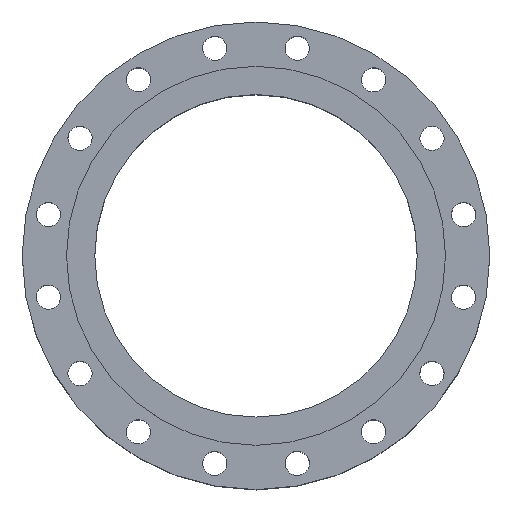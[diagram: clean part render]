
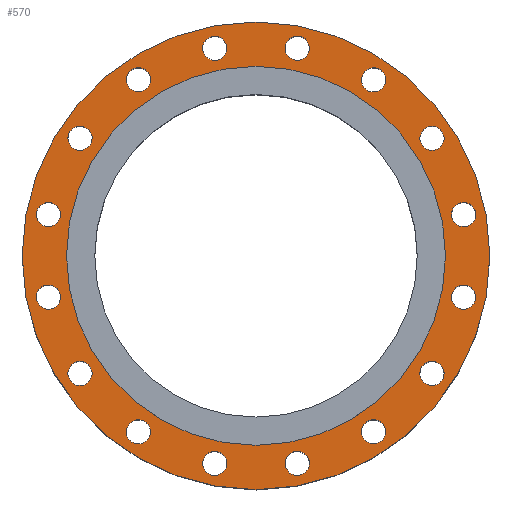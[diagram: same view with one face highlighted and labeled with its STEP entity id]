
A CAD part, top view. The second image highlights one B-rep face of the part: STEP entity #570.
In plain terms, the highlighted planar face has unit normal (0, 0, 1).
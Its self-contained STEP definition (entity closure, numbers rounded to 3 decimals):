
#570=ADVANCED_FACE('',(#1227,#1229,#1231,#1233,#1235,#1237,#1239,#1241,#1243,#1245,
#1247,#1249,#1251,#1253,#1255,#1257,#1259,#1261),#1263,.T.);
#1227=FACE_BOUND('',#1228,.T.);
#1228=EDGE_LOOP('',(#1588));
#1229=FACE_BOUND('',#1230,.T.);
#1230=EDGE_LOOP('',(#1589));
#1231=FACE_BOUND('',#1232,.T.);
#1232=EDGE_LOOP('',(#1590));
#1233=FACE_BOUND('',#1234,.T.);
#1234=EDGE_LOOP('',(#1591));
#1235=FACE_BOUND('',#1236,.T.);
#1236=EDGE_LOOP('',(#1592));
#1237=FACE_BOUND('',#1238,.T.);
#1238=EDGE_LOOP('',(#1593));
#1239=FACE_BOUND('',#1240,.T.);
#1240=EDGE_LOOP('',(#1594));
#1241=FACE_BOUND('',#1242,.T.);
#1242=EDGE_LOOP('',(#1595));
#1243=FACE_BOUND('',#1244,.T.);
#1244=EDGE_LOOP('',(#1596));
#1245=FACE_BOUND('',#1246,.T.);
#1246=EDGE_LOOP('',(#1597));
#1247=FACE_BOUND('',#1248,.T.);
#1248=EDGE_LOOP('',(#1598));
#1249=FACE_BOUND('',#1250,.T.);
#1250=EDGE_LOOP('',(#1599));
#1251=FACE_BOUND('',#1252,.T.);
#1252=EDGE_LOOP('',(#1600));
#1253=FACE_BOUND('',#1254,.T.);
#1254=EDGE_LOOP('',(#1601));
#1255=FACE_BOUND('',#1256,.T.);
#1256=EDGE_LOOP('',(#1602));
#1257=FACE_BOUND('',#1258,.T.);
#1258=EDGE_LOOP('',(#1603));
#1259=FACE_BOUND('',#1260,.T.);
#1260=EDGE_LOOP('',(#1604));
#1261=FACE_BOUND('',#1262,.T.);
#1262=EDGE_LOOP('',(#1605));
#1263=PLANE('',#1264);
#1264=AXIS2_PLACEMENT_3D('',#1265,#1266,#1267);
#1265=CARTESIAN_POINT('',(0.,0.,122.5));
#1266=DIRECTION('',(0.,0.,1.));
#1267=DIRECTION('',(0.,1.,0.));
#1588=ORIENTED_EDGE('',*,*,#1724,.F.);
#1589=ORIENTED_EDGE('',*,*,#1725,.T.);
#1590=ORIENTED_EDGE('',*,*,#1726,.T.);
#1591=ORIENTED_EDGE('',*,*,#1727,.T.);
#1592=ORIENTED_EDGE('',*,*,#1728,.T.);
#1593=ORIENTED_EDGE('',*,*,#1729,.T.);
#1594=ORIENTED_EDGE('',*,*,#1730,.T.);
#1595=ORIENTED_EDGE('',*,*,#1731,.T.);
#1596=ORIENTED_EDGE('',*,*,#1732,.T.);
#1597=ORIENTED_EDGE('',*,*,#1733,.T.);
#1598=ORIENTED_EDGE('',*,*,#1734,.T.);
#1599=ORIENTED_EDGE('',*,*,#1735,.T.);
#1600=ORIENTED_EDGE('',*,*,#1736,.T.);
#1601=ORIENTED_EDGE('',*,*,#1737,.T.);
#1602=ORIENTED_EDGE('',*,*,#1738,.T.);
#1603=ORIENTED_EDGE('',*,*,#1739,.T.);
#1604=ORIENTED_EDGE('',*,*,#1758,.T.);
#1605=ORIENTED_EDGE('',*,*,#1740,.T.);
#1724=EDGE_CURVE('',#1918,#1918,#1919,.T.);
#1725=EDGE_CURVE('',#1920,#1920,#1921,.T.);
#1726=EDGE_CURVE('',#1922,#1922,#1923,.T.);
#1727=EDGE_CURVE('',#1924,#1924,#1925,.T.);
#1728=EDGE_CURVE('',#1926,#1926,#1927,.T.);
#1729=EDGE_CURVE('',#1928,#1928,#1929,.T.);
#1730=EDGE_CURVE('',#1930,#1930,#1931,.T.);
#1731=EDGE_CURVE('',#1932,#1932,#1933,.T.);
#1732=EDGE_CURVE('',#1934,#1934,#1935,.T.);
#1733=EDGE_CURVE('',#1936,#1936,#1937,.T.);
#1734=EDGE_CURVE('',#1938,#1938,#1939,.T.);
#1735=EDGE_CURVE('',#1940,#1940,#1941,.T.);
#1736=EDGE_CURVE('',#1942,#1942,#1943,.T.);
#1737=EDGE_CURVE('',#1944,#1944,#1945,.T.);
#1738=EDGE_CURVE('',#1946,#1946,#1947,.T.);
#1739=EDGE_CURVE('',#1948,#1948,#1949,.T.);
#1740=EDGE_CURVE('',#1950,#1950,#1951,.T.);
#1758=EDGE_CURVE('',#1986,#1986,#1987,.T.);
#1918=VERTEX_POINT('',#3362);
#1919=CIRCLE('',#3363,290.);
#1920=VERTEX_POINT('',#3367);
#1921=CIRCLE('',#3368,15.);
#1922=VERTEX_POINT('',#3372);
#1923=CIRCLE('',#3373,15.);
#1924=VERTEX_POINT('',#3377);
#1925=CIRCLE('',#3378,15.);
#1926=VERTEX_POINT('',#3382);
#1927=CIRCLE('',#3383,15.);
#1928=VERTEX_POINT('',#3387);
#1929=CIRCLE('',#3388,15.);
#1930=VERTEX_POINT('',#3392);
#1931=CIRCLE('',#3393,15.);
#1932=VERTEX_POINT('',#3397);
#1933=CIRCLE('',#3398,15.);
#1934=VERTEX_POINT('',#3402);
#1935=CIRCLE('',#3403,15.);
#1936=VERTEX_POINT('',#3407);
#1937=CIRCLE('',#3408,15.);
#1938=VERTEX_POINT('',#3412);
#1939=CIRCLE('',#3413,15.);
#1940=VERTEX_POINT('',#3417);
#1941=CIRCLE('',#3418,15.);
#1942=VERTEX_POINT('',#3422);
#1943=CIRCLE('',#3423,15.);
#1944=VERTEX_POINT('',#3427);
#1945=CIRCLE('',#3428,15.);
#1946=VERTEX_POINT('',#3432);
#1947=CIRCLE('',#3433,15.);
#1948=VERTEX_POINT('',#3437);
#1949=CIRCLE('',#3438,15.);
#1950=VERTEX_POINT('',#3442);
#1951=CIRCLE('',#3443,15.);
#1986=VERTEX_POINT('',#3532);
#1987=CIRCLE('',#3533,235.);
#3362=CARTESIAN_POINT('',(0.,290.,122.5));
#3363=AXIS2_PLACEMENT_3D('',#3364,#3365,#3366);
#3364=CARTESIAN_POINT('',(0.,0.,122.5));
#3365=DIRECTION('',(0.,0.,-1.));
#3366=DIRECTION('',(0.,1.,0.));
#3367=CARTESIAN_POINT('',(131.979,224.001,122.5));
#3368=AXIS2_PLACEMENT_3D('',#3369,#3370,#3371);
#3369=CARTESIAN_POINT('',(145.837,218.261,122.5));
#3370=DIRECTION('',(0.,0.,-1.));
#3371=DIRECTION('',(-0.924,0.383,0.));
#3372=CARTESIAN_POINT('',(207.654,156.444,122.5));
#3373=AXIS2_PLACEMENT_3D('',#3374,#3375,#3376);
#3374=CARTESIAN_POINT('',(218.261,145.837,122.5));
#3375=DIRECTION('',(0.,0.,-1.));
#3376=DIRECTION('',(-0.707,0.707,0.));
#3377=CARTESIAN_POINT('',(251.716,65.069,122.5));
#3378=AXIS2_PLACEMENT_3D('',#3379,#3380,#3381);
#3379=CARTESIAN_POINT('',(257.456,51.211,122.5));
#3380=DIRECTION('',(0.,0.,-1.));
#3381=DIRECTION('',(-0.383,0.924,0.));
#3382=CARTESIAN_POINT('',(257.456,-36.211,122.5));
#3383=AXIS2_PLACEMENT_3D('',#3384,#3385,#3386);
#3384=CARTESIAN_POINT('',(257.456,-51.211,122.5));
#3385=DIRECTION('',(0.,0.,-1.));
#3386=DIRECTION('',(0.,1.,0.));
#3387=CARTESIAN_POINT('',(224.001,-131.979,122.5));
#3388=AXIS2_PLACEMENT_3D('',#3389,#3390,#3391);
#3389=CARTESIAN_POINT('',(218.261,-145.837,122.5));
#3390=DIRECTION('',(0.,0.,-1.));
#3391=DIRECTION('',(0.383,0.924,0.));
#3392=CARTESIAN_POINT('',(156.444,-207.654,122.5));
#3393=AXIS2_PLACEMENT_3D('',#3394,#3395,#3396);
#3394=CARTESIAN_POINT('',(145.837,-218.261,122.5));
#3395=DIRECTION('',(0.,0.,-1.));
#3396=DIRECTION('',(0.707,0.707,0.));
#3397=CARTESIAN_POINT('',(65.069,-251.716,122.5));
#3398=AXIS2_PLACEMENT_3D('',#3399,#3400,#3401);
#3399=CARTESIAN_POINT('',(51.211,-257.456,122.5));
#3400=DIRECTION('',(0.,0.,-1.));
#3401=DIRECTION('',(0.924,0.383,0.));
#3402=CARTESIAN_POINT('',(-36.211,-257.456,122.5));
#3403=AXIS2_PLACEMENT_3D('',#3404,#3405,#3406);
#3404=CARTESIAN_POINT('',(-51.211,-257.456,122.5));
#3405=DIRECTION('',(0.,0.,-1.));
#3406=DIRECTION('',(1.,0.,0.));
#3407=CARTESIAN_POINT('',(-131.979,-224.001,122.5));
#3408=AXIS2_PLACEMENT_3D('',#3409,#3410,#3411);
#3409=CARTESIAN_POINT('',(-145.837,-218.261,122.5));
#3410=DIRECTION('',(0.,0.,-1.));
#3411=DIRECTION('',(0.924,-0.383,0.));
#3412=CARTESIAN_POINT('',(-207.654,-156.444,122.5));
#3413=AXIS2_PLACEMENT_3D('',#3414,#3415,#3416);
#3414=CARTESIAN_POINT('',(-218.261,-145.837,122.5));
#3415=DIRECTION('',(0.,0.,-1.));
#3416=DIRECTION('',(0.707,-0.707,0.));
#3417=CARTESIAN_POINT('',(-251.716,-65.069,122.5));
#3418=AXIS2_PLACEMENT_3D('',#3419,#3420,#3421);
#3419=CARTESIAN_POINT('',(-257.456,-51.211,122.5));
#3420=DIRECTION('',(0.,0.,-1.));
#3421=DIRECTION('',(0.383,-0.924,0.));
#3422=CARTESIAN_POINT('',(-257.456,36.211,122.5));
#3423=AXIS2_PLACEMENT_3D('',#3424,#3425,#3426);
#3424=CARTESIAN_POINT('',(-257.456,51.211,122.5));
#3425=DIRECTION('',(0.,0.,-1.));
#3426=DIRECTION('',(0.,-1.,0.));
#3427=CARTESIAN_POINT('',(-224.001,131.979,122.5));
#3428=AXIS2_PLACEMENT_3D('',#3429,#3430,#3431);
#3429=CARTESIAN_POINT('',(-218.261,145.837,122.5));
#3430=DIRECTION('',(0.,0.,-1.));
#3431=DIRECTION('',(-0.383,-0.924,0.));
#3432=CARTESIAN_POINT('',(-156.444,207.654,122.5));
#3433=AXIS2_PLACEMENT_3D('',#3434,#3435,#3436);
#3434=CARTESIAN_POINT('',(-145.837,218.261,122.5));
#3435=DIRECTION('',(0.,0.,-1.));
#3436=DIRECTION('',(-0.707,-0.707,0.));
#3437=CARTESIAN_POINT('',(-65.069,251.716,122.5));
#3438=AXIS2_PLACEMENT_3D('',#3439,#3440,#3441);
#3439=CARTESIAN_POINT('',(-51.211,257.456,122.5));
#3440=DIRECTION('',(0.,0.,-1.));
#3441=DIRECTION('',(-0.924,-0.383,0.));
#3442=CARTESIAN_POINT('',(36.211,257.456,122.5));
#3443=AXIS2_PLACEMENT_3D('',#3444,#3445,#3446);
#3444=CARTESIAN_POINT('',(51.211,257.456,122.5));
#3445=DIRECTION('',(0.,0.,-1.));
#3446=DIRECTION('',(-1.,0.,0.));
#3532=CARTESIAN_POINT('',(0.,235.,122.5));
#3533=AXIS2_PLACEMENT_3D('',#3534,#3535,#3536);
#3534=CARTESIAN_POINT('',(0.,0.,122.5));
#3535=DIRECTION('',(0.,0.,-1.));
#3536=DIRECTION('',(0.,1.,0.));
